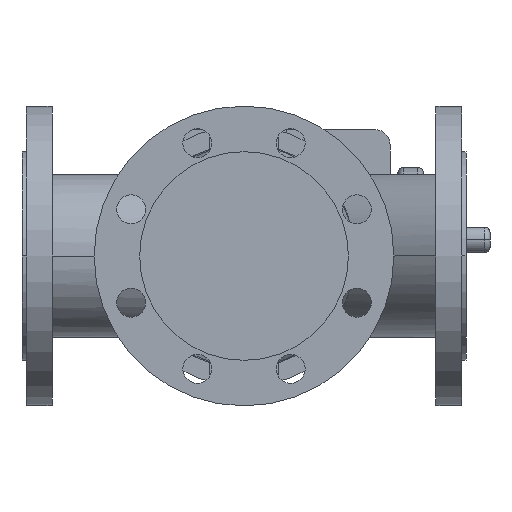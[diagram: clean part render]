
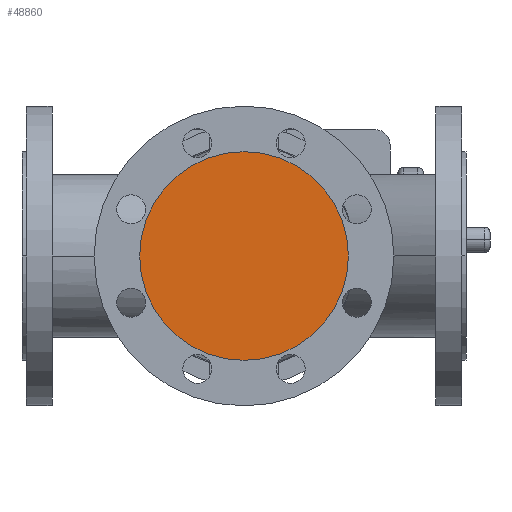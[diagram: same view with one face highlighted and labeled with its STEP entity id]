
A CAD part, front view. The second image highlights one B-rep face of the part: STEP entity #48860.
In plain terms, the highlighted planar face has unit normal (0, -1, 0).
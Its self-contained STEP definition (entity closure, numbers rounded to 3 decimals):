
#6550=CARTESIAN_POINT('',(106.,-200.,0.));
#6560=VERTEX_POINT('',#6550);
#6590=CARTESIAN_POINT('',(200.,-200.,0.));
#6600=DIRECTION('',(0.,1.,0.));
#6610=DIRECTION('',(1.,0.,0.));
#6620=AXIS2_PLACEMENT_3D('',#6590,#6600,#6610);
#6630=CIRCLE('',#6620,94.);
#6640=CARTESIAN_POINT('',(294.,-200.,0.));
#6650=VERTEX_POINT('',#6640);
#6660=EDGE_CURVE('',#6650,#6560,#6630,.T.);
#48760=CARTESIAN_POINT('',(247.,-200.,0.));
#48770=DIRECTION('',(0.,-1.,0.));
#48780=DIRECTION('',(-1.,0.,0.));
#48790=AXIS2_PLACEMENT_3D('',#48760,#48770,#48780);
#48800=PLANE('',#48790);
#48810=EDGE_CURVE('',#6560,#6650,#6630,.T.);
#48820=ORIENTED_EDGE('',*,*,#48810,.F.);
#48830=ORIENTED_EDGE('',*,*,#6660,.F.);
#48840=EDGE_LOOP('',(#48830,#48820));
#48850=FACE_OUTER_BOUND('',#48840,.T.);
#48860=ADVANCED_FACE('',(#48850),#48800,.T.);
